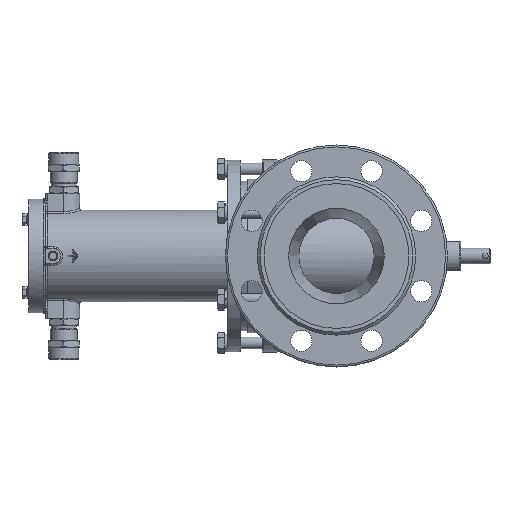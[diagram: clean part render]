
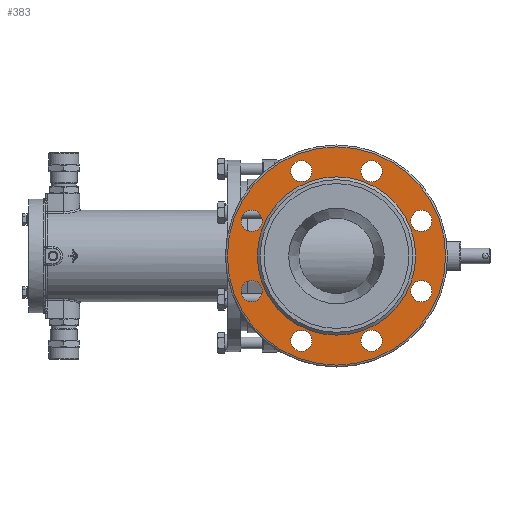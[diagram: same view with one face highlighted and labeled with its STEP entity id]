
A CAD part, left-side view. The second image highlights one B-rep face of the part: STEP entity #383.
In plain terms, the highlighted planar face has unit normal (-1, 0, 0).
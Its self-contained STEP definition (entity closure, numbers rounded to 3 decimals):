
#383=ADVANCED_FACE('',(#7974,#7976,#7978,#7980,#7982,#7984,#7986,#7988,#7990,#7992),
#7994,.T.);
#7974=FACE_BOUND('',#7975,.T.);
#7975=EDGE_LOOP('',(#23541));
#7976=FACE_BOUND('',#7977,.T.);
#7977=EDGE_LOOP('',(#23542));
#7978=FACE_BOUND('',#7979,.T.);
#7979=EDGE_LOOP('',(#23543));
#7980=FACE_BOUND('',#7981,.T.);
#7981=EDGE_LOOP('',(#23544));
#7982=FACE_BOUND('',#7983,.T.);
#7983=EDGE_LOOP('',(#23545));
#7984=FACE_BOUND('',#7985,.T.);
#7985=EDGE_LOOP('',(#23546));
#7986=FACE_BOUND('',#7987,.T.);
#7987=EDGE_LOOP('',(#23547));
#7988=FACE_BOUND('',#7989,.T.);
#7989=EDGE_LOOP('',(#23548));
#7990=FACE_BOUND('',#7991,.T.);
#7991=EDGE_LOOP('',(#23549));
#7992=FACE_OUTER_BOUND('',#7993,.T.);
#7993=EDGE_LOOP('',(#23550));
#7994=PLANE('',#7995);
#7995=AXIS2_PLACEMENT_3D('',#7996,#7997,#7998);
#7996=CARTESIAN_POINT('',(-151.,0.,0.));
#7997=DIRECTION('',(-1.,0.,0.));
#7998=DIRECTION('',(0.,1.,0.));
#23541=ORIENTED_EDGE('',*,*,#35218,.F.);
#23542=ORIENTED_EDGE('',*,*,#35185,.T.);
#23543=ORIENTED_EDGE('',*,*,#35183,.T.);
#23544=ORIENTED_EDGE('',*,*,#35181,.T.);
#23545=ORIENTED_EDGE('',*,*,#35179,.T.);
#23546=ORIENTED_EDGE('',*,*,#35177,.T.);
#23547=ORIENTED_EDGE('',*,*,#35175,.T.);
#23548=ORIENTED_EDGE('',*,*,#35173,.T.);
#23549=ORIENTED_EDGE('',*,*,#35171,.T.);
#23550=ORIENTED_EDGE('',*,*,#35219,.T.);
#35171=EDGE_CURVE('',#40531,#40531,#40533,.F.);
#35173=EDGE_CURVE('',#40534,#40534,#40536,.F.);
#35175=EDGE_CURVE('',#40537,#40537,#40539,.F.);
#35177=EDGE_CURVE('',#40540,#40540,#40542,.F.);
#35179=EDGE_CURVE('',#40543,#40543,#40545,.F.);
#35181=EDGE_CURVE('',#40546,#40546,#40548,.F.);
#35183=EDGE_CURVE('',#40549,#40549,#40551,.F.);
#35185=EDGE_CURVE('',#40552,#40552,#40554,.F.);
#35218=EDGE_CURVE('',#40612,#40612,#40613,.T.);
#35219=EDGE_CURVE('',#40614,#40614,#40615,.T.);
#40531=VERTEX_POINT('',#54255);
#40533=CIRCLE('',#54259,11.);
#40534=VERTEX_POINT('',#54263);
#40536=CIRCLE('',#54267,11.);
#40537=VERTEX_POINT('',#54271);
#40539=CIRCLE('',#54275,11.);
#40540=VERTEX_POINT('',#54279);
#40542=CIRCLE('',#54283,11.);
#40543=VERTEX_POINT('',#54287);
#40545=CIRCLE('',#54291,11.);
#40546=VERTEX_POINT('',#54295);
#40548=CIRCLE('',#54299,11.);
#40549=VERTEX_POINT('',#54303);
#40551=CIRCLE('',#54307,11.);
#40552=VERTEX_POINT('',#54311);
#40554=CIRCLE('',#54315,11.);
#40612=VERTEX_POINT('',#54575);
#40613=CIRCLE('',#54576,82.);
#40614=VERTEX_POINT('',#54580);
#40615=CIRCLE('',#54581,113.);
#54255=CARTESIAN_POINT('',(-151.,87.769,25.355));
#54259=AXIS2_PLACEMENT_3D('',#54260,#54261,#54262);
#54260=CARTESIAN_POINT('',(-151.,87.769,36.355));
#54261=DIRECTION('',(-1.,0.,0.));
#54262=DIRECTION('',(0.,0.,-1.));
#54263=CARTESIAN_POINT('',(-151.,87.769,-47.355));
#54267=AXIS2_PLACEMENT_3D('',#54268,#54269,#54270);
#54268=CARTESIAN_POINT('',(-151.,87.769,-36.355));
#54269=DIRECTION('',(-1.,0.,0.));
#54270=DIRECTION('',(0.,0.,-1.));
#54271=CARTESIAN_POINT('',(-151.,36.355,-98.769));
#54275=AXIS2_PLACEMENT_3D('',#54276,#54277,#54278);
#54276=CARTESIAN_POINT('',(-151.,36.355,-87.769));
#54277=DIRECTION('',(-1.,0.,0.));
#54278=DIRECTION('',(0.,0.,-1.));
#54279=CARTESIAN_POINT('',(-151.,36.355,76.769));
#54283=AXIS2_PLACEMENT_3D('',#54284,#54285,#54286);
#54284=CARTESIAN_POINT('',(-151.,36.355,87.769));
#54285=DIRECTION('',(-1.,0.,0.));
#54286=DIRECTION('',(0.,0.,-1.));
#54287=CARTESIAN_POINT('',(-151.,-87.769,25.355));
#54291=AXIS2_PLACEMENT_3D('',#54292,#54293,#54294);
#54292=CARTESIAN_POINT('',(-151.,-87.769,36.355));
#54293=DIRECTION('',(-1.,0.,0.));
#54294=DIRECTION('',(0.,0.,-1.));
#54295=CARTESIAN_POINT('',(-151.,-87.769,-47.355));
#54299=AXIS2_PLACEMENT_3D('',#54300,#54301,#54302);
#54300=CARTESIAN_POINT('',(-151.,-87.769,-36.355));
#54301=DIRECTION('',(-1.,0.,0.));
#54302=DIRECTION('',(0.,0.,-1.));
#54303=CARTESIAN_POINT('',(-151.,-36.355,-98.769));
#54307=AXIS2_PLACEMENT_3D('',#54308,#54309,#54310);
#54308=CARTESIAN_POINT('',(-151.,-36.355,-87.769));
#54309=DIRECTION('',(-1.,0.,0.));
#54310=DIRECTION('',(0.,0.,-1.));
#54311=CARTESIAN_POINT('',(-151.,-36.355,76.769));
#54315=AXIS2_PLACEMENT_3D('',#54316,#54317,#54318);
#54316=CARTESIAN_POINT('',(-151.,-36.355,87.769));
#54317=DIRECTION('',(-1.,0.,0.));
#54318=DIRECTION('',(0.,0.,-1.));
#54575=CARTESIAN_POINT('',(-151.,82.,0.));
#54576=AXIS2_PLACEMENT_3D('',#54577,#54578,#54579);
#54577=CARTESIAN_POINT('',(-151.,0.,0.));
#54578=DIRECTION('',(-1.,0.,0.));
#54579=DIRECTION('',(0.,1.,0.));
#54580=CARTESIAN_POINT('',(-151.,113.,0.));
#54581=AXIS2_PLACEMENT_3D('',#54582,#54583,#54584);
#54582=CARTESIAN_POINT('',(-151.,0.,0.));
#54583=DIRECTION('',(-1.,0.,0.));
#54584=DIRECTION('',(0.,1.,0.));
